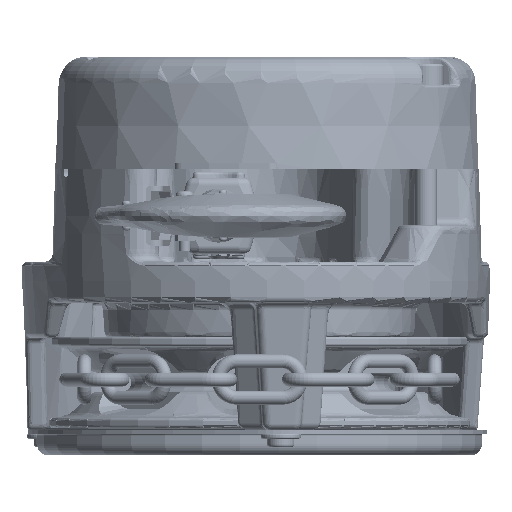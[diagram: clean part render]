
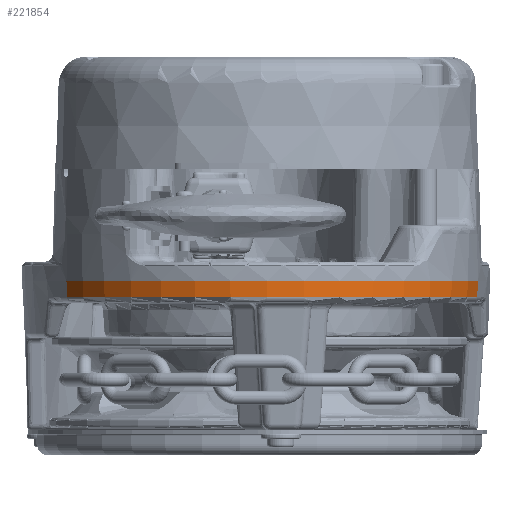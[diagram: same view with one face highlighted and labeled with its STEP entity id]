
A CAD part, front view. The second image highlights one B-rep face of the part: STEP entity #221854.
In plain terms, the highlighted conical face has half-angle 2.083 degrees and reference radius 79 mm.
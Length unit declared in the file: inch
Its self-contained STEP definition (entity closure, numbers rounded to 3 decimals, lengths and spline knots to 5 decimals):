
#4853 = CARTESIAN_POINT ( 'NONE',  ( 2.98365, -2.10684, -0.51467 ) ) ;
#11572 = CIRCLE ( 'NONE', #188810, 3.11024 ) ;
#18117 = AXIS2_PLACEMENT_3D ( 'NONE', #167827, #145384, #26420 ) ;
#26420 = DIRECTION ( 'NONE',  ( 1., 0., 0. ) ) ;
#40593 = CARTESIAN_POINT ( 'NONE',  ( -2.99201, -2.10922, -0.27559 ) ) ;
#40927 = EDGE_CURVE ( 'NONE', #201239, #249419, #176293, .T. ) ;
#54030 = VECTOR ( 'NONE', #213274, 39.37008 ) ;
#60306 = AXIS2_PLACEMENT_3D ( 'NONE', #68495, #227126, #256065 ) ;
#61646 = DIRECTION ( 'NONE',  ( -0.035, 0.01, -0.999 ) ) ;
#68495 = CARTESIAN_POINT ( 'NONE',  ( 0., -1.25984, -0.27559 ) ) ;
#73088 = EDGE_CURVE ( 'NONE', #249419, #125122, #127608, .T. ) ;
#73243 = ORIENTED_EDGE ( 'NONE', *, *, #40927, .T. ) ;
#73860 = VERTEX_POINT ( 'NONE', #221534 ) ;
#76658 = ORIENTED_EDGE ( 'NONE', *, *, #135341, .T. ) ;
#100004 = LINE ( 'NONE', #222902, #237850 ) ;
#101041 = EDGE_LOOP ( 'NONE', ( #73243, #133473, #261209, #76658 ) ) ;
#109469 = FACE_OUTER_BOUND ( 'NONE', #101041, .T. ) ;
#111497 = CARTESIAN_POINT ( 'NONE',  ( -2.99201, -2.10922, -0.27559 ) ) ;
#125122 = VERTEX_POINT ( 'NONE', #4853 ) ;
#127608 = CIRCLE ( 'NONE', #18117, 3.10154 ) ;
#133473 = ORIENTED_EDGE ( 'NONE', *, *, #73088, .T. ) ;
#135341 = EDGE_CURVE ( 'NONE', #73860, #201239, #11572, .T. ) ;
#145384 = DIRECTION ( 'NONE',  ( 0., 0., 1. ) ) ;
#157522 = DIRECTION ( 'NONE',  ( 0., 0., -1. ) ) ;
#160120 = DIRECTION ( 'NONE',  ( -1., 0., 0. ) ) ;
#167827 = CARTESIAN_POINT ( 'NONE',  ( 0., -1.25984, -0.51467 ) ) ;
#172437 = CARTESIAN_POINT ( 'NONE',  ( -2.98365, -2.10684, -0.51467 ) ) ;
#176293 = LINE ( 'NONE', #111497, #54030 ) ;
#188810 = AXIS2_PLACEMENT_3D ( 'NONE', #257850, #157522, #160120 ) ;
#191246 = CONICAL_SURFACE ( 'NONE', #60306, 3.11024, 0.036 ) ;
#201239 = VERTEX_POINT ( 'NONE', #40593 ) ;
#213274 = DIRECTION ( 'NONE',  ( 0.035, 0.01, -0.999 ) ) ;
#221534 = CARTESIAN_POINT ( 'NONE',  ( 2.99201, -2.10922, -0.27559 ) ) ;
#221854 = ADVANCED_FACE ( 'NONE', ( #109469 ), #191246, .T. ) ;
#222902 = CARTESIAN_POINT ( 'NONE',  ( 2.99201, -2.10922, -0.27559 ) ) ;
#227126 = DIRECTION ( 'NONE',  ( 0., 0., 1. ) ) ;
#237850 = VECTOR ( 'NONE', #61646, 39.37008 ) ;
#249419 = VERTEX_POINT ( 'NONE', #172437 ) ;
#256065 = DIRECTION ( 'NONE',  ( 1., 0., 0. ) ) ;
#257850 = CARTESIAN_POINT ( 'NONE',  ( 0., -1.25984, -0.27559 ) ) ;
#259747 = EDGE_CURVE ( 'NONE', #73860, #125122, #100004, .T. ) ;
#261209 = ORIENTED_EDGE ( 'NONE', *, *, #259747, .F. ) ;
